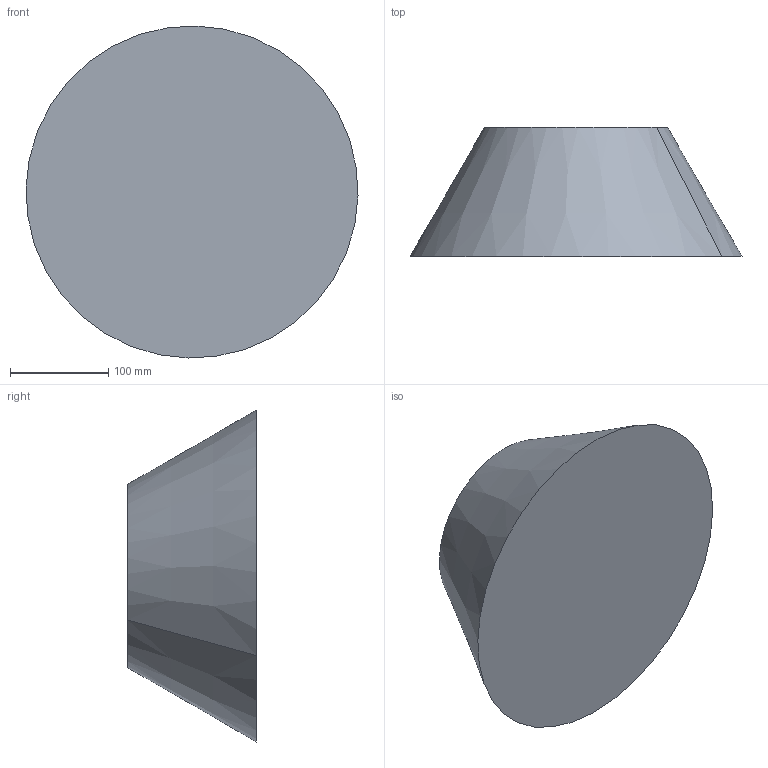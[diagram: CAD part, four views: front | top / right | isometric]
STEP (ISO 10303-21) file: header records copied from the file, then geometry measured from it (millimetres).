
FILE_DESCRIPTION(('CATIA V5 STEP Exchange'),'2;1');
FILE_NAME('C:\_Andres\UNIVERSIDAD\IQS\ASIGNATURAS\DAO\EXF\EXF-16172c\2inicio\Sanz_Alvarez_Ej09_v31.stp','2017-03-05T22:13:15+00:00',('none'),('none'),'CATIA Version 5-6 Release 2014 SP1 HF18','CATIA V5 STEP AP203','none');
FILE_SCHEMA(('CONFIG_CONTROL_DESIGN'));
Length unit declared in the file: millimetre
Products named in the file (1): Sanz_Alvarez_Ej09_v31
Bounding box: 337.91 x 131 x 337.91 mm (x, y, z)
Volume: 7270721.2 mm3; surface area: 243993.6 mm2
Topology: 1 solids, 2 shells, 8 faces, 12 edges, 8 vertices
Faces by surface type: plane 4, cone 2, cylinder 2
Entity records: 205 total; most frequent: CARTESIAN_POINT 27, DIRECTION 24, ORIENTED_EDGE 24, AXIS2_PLACEMENT_3D 15, EDGE_CURVE 12, ADVANCED_FACE 8, CIRCLE 8, EDGE_LOOP 8
